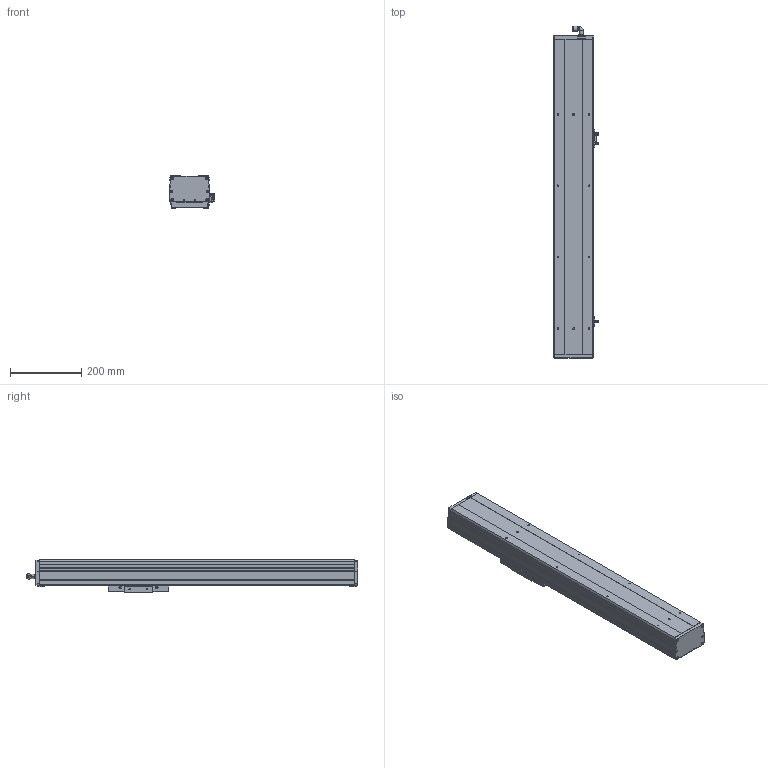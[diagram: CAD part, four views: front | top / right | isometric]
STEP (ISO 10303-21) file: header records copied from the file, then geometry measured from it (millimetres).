
FILE_DESCRIPTION (( 'STEP AP203' ), '1' );
FILE_NAME ('10.STEP', '2021-01-06T03:31:45', ( '' ), ( '' ), 'SwSTEP 2.0', 'SolidWorks 2016', '' );
FILE_SCHEMA (( 'CONFIG_CONTROL_DESIGN' ));
Length unit declared in the file: millimetre
Products named in the file (9): BCH11-M-HZ-01; BCH11-M-01; BCH11-M-04; BCH11-M-10; 10; BCH11-M-菁釱; BCH11-M-05; BCH11-M-06; BCH11-M-02
Assembly tree (11 placements, depth 2):
  10
    BCH11-M-菁釱
    BCH11-M-HZ-01
    BCH11-M-01
    BCH11-M-02  x2
    BCH11-M-04  x3
    BCH11-M-05
    BCH11-M-06
    BCH11-M-10
Bounding box: 127.7 x 930.93 x 90 mm (x, y, z)
Volume: 2424945.8 mm3; surface area: 798112.1 mm2
Topology: 19 solids, 19 shells, 1177 faces, 3011 edges, 1908 vertices
Faces by surface type: plane 737, cylinder 338, cone 76, bspline 12, sphere 12, torus 2
Entity records: 28612 total; most frequent: CARTESIAN_POINT 5124, DIRECTION 4775, ORIENTED_EDGE 4546, EDGE_CURVE 2273, AXIS2_PLACEMENT_3D 1613, LINE 1549, VECTOR 1549, VERTEX_POINT 1456
